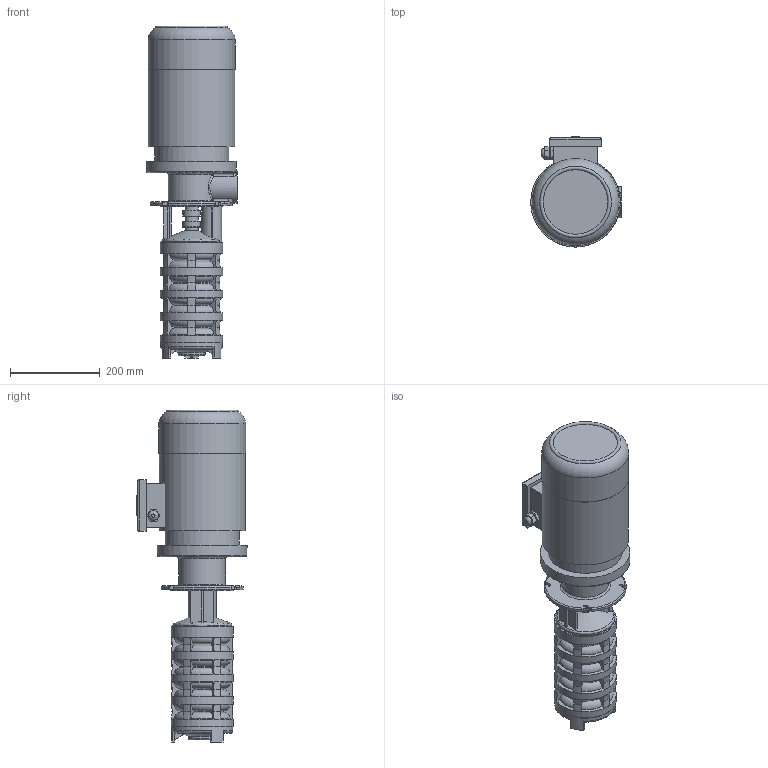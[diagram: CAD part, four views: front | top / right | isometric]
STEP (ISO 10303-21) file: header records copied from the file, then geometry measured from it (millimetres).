
FILE_DESCRIPTION(/* description */ ('Unknown'),/* implementation_level */ '2;1');
FILE_NAME(/* name */ 'gp5-340',/* time_stamp */ '2025-06-12T11:04:56+03:00',/* author */ ('Unknown'),/* organization */ ('Unknown'),/* preprocessor_version */ 'ST-DEVELOPER v16.7',/* originating_system */ 'DEX',/* authorisation */ $);
FILE_SCHEMA (('AUTOMOTIVE_DESIGN {1 0 10303 214 3 1 1}'));
Length unit declared in the file: millimetre
Products named in the file (1): gp5-340
Bounding box: 202 x 245.5 x 740.49 mm (x, y, z)
Volume: 14439310.8 mm3; surface area: 573872.6 mm2
Topology: 1 solids, 1 shells, 474 faces, 1260 edges, 819 vertices
Faces by surface type: plane 158, cylinder 94, bspline 85, cone 73, torus 64
Full cylindrical faces by diameter (mm): 17 x1, 21.5 x1, 29 x3, 33 x2, 35 x2, 39 x2, 40.5 x2, 45 x1, 47 x1, 60 x1, 137 x1, 139 x5, 140 x1, 165 x1, 192.353 x1, 194 x1, 200 x1
Entity records: 17424 total; most frequent: CARTESIAN_POINT 6196, ORIENTED_EDGE 2374, DIRECTION 2211, EDGE_CURVE 1187, AXIS2_PLACEMENT_3D 841, VERTEX_POINT 803, EDGE_LOOP 566, FACE_BOUND 566
